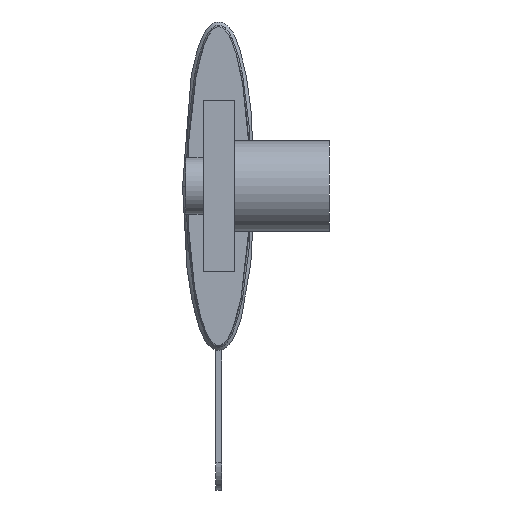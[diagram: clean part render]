
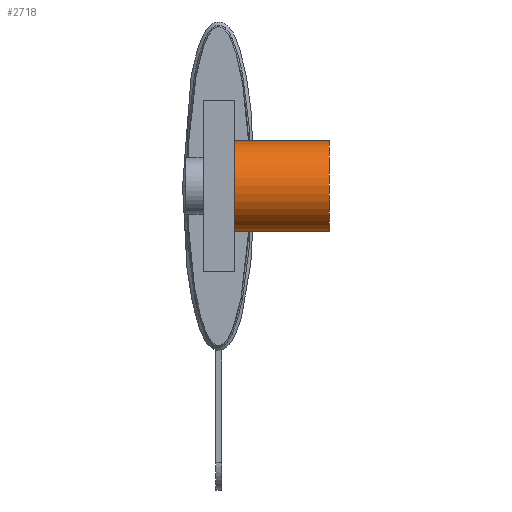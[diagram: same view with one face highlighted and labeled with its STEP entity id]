
A CAD part, left-side view. The second image highlights one B-rep face of the part: STEP entity #2718.
In plain terms, the highlighted cylindrical face has radius 3.97 mm (diameter 7.94 mm), a partial arc.
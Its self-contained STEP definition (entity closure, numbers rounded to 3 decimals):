
#494 = EDGE_LOOP ( 'NONE', ( #1005, #1007, #1015, #1028 ) ) ;
#897 = DIRECTION ( 'NONE',  ( 0., 0., 1. ) ) ;
#899 = DIRECTION ( 'NONE',  ( 0., -1., 0. ) ) ;
#904 = CARTESIAN_POINT ( 'NONE',  ( -53.975, -1.375, 0. ) ) ;
#943 = VECTOR ( 'NONE', #1567, 1000. ) ;
#948 = EDGE_CURVE ( 'NONE', #5936, #3561, #1159, .T. ) ;
#1005 = ORIENTED_EDGE ( 'NONE', *, *, #948, .F. ) ;
#1007 = ORIENTED_EDGE ( 'NONE', *, *, #2132, .T. ) ;
#1015 = ORIENTED_EDGE ( 'NONE', *, *, #1449, .T. ) ;
#1028 = ORIENTED_EDGE ( 'NONE', *, *, #1119, .T. ) ;
#1091 = CYLINDRICAL_SURFACE ( 'NONE', #3620, 3.97 ) ;
#1119 = EDGE_CURVE ( 'NONE', #3676, #3561, #6023, .T. ) ;
#1157 = DIRECTION ( 'NONE',  ( 0., 1., 0. ) ) ;
#1158 = CARTESIAN_POINT ( 'NONE',  ( -53.975, -31.375, -3.97 ) ) ;
#1159 = LINE ( 'NONE', #1158, #6158 ) ;
#1447 = CIRCLE ( 'NONE', #1470, 3.97 ) ;
#1449 = EDGE_CURVE ( 'NONE', #3592, #3676, #5931, .T. ) ;
#1470 = AXIS2_PLACEMENT_3D ( 'NONE', #4188, #2822, #2852 ) ;
#1567 = DIRECTION ( 'NONE',  ( 0., 1., 0. ) ) ;
#2132 = EDGE_CURVE ( 'NONE', #5936, #3592, #1447, .T. ) ;
#2579 = DIRECTION ( 'NONE',  ( 0., 0., 1. ) ) ;
#2718 = ADVANCED_FACE ( 'NONE', ( #5368 ), #1091, .T. ) ;
#2822 = DIRECTION ( 'NONE',  ( 0., 1., 0. ) ) ;
#2852 = DIRECTION ( 'NONE',  ( 0., 0., 1. ) ) ;
#3189 = CARTESIAN_POINT ( 'NONE',  ( -53.975, -31.375, 0. ) ) ;
#3520 = CARTESIAN_POINT ( 'NONE',  ( -53.975, -31.375, 3.97 ) ) ;
#3561 = VERTEX_POINT ( 'NONE', #5583 ) ;
#3592 = VERTEX_POINT ( 'NONE', #5548 ) ;
#3620 = AXIS2_PLACEMENT_3D ( 'NONE', #3189, #6280, #2579 ) ;
#3676 = VERTEX_POINT ( 'NONE', #4687 ) ;
#4188 = CARTESIAN_POINT ( 'NONE',  ( -53.975, -9.735, 0. ) ) ;
#4687 = CARTESIAN_POINT ( 'NONE',  ( -53.975, -1.375, 3.97 ) ) ;
#4897 = CARTESIAN_POINT ( 'NONE',  ( -53.975, -9.735, -3.97 ) ) ;
#5368 = FACE_OUTER_BOUND ( 'NONE', #494, .T. ) ;
#5548 = CARTESIAN_POINT ( 'NONE',  ( -53.975, -9.735, 3.97 ) ) ;
#5583 = CARTESIAN_POINT ( 'NONE',  ( -53.975, -1.375, -3.97 ) ) ;
#5925 = AXIS2_PLACEMENT_3D ( 'NONE', #904, #899, #897 ) ;
#5931 = LINE ( 'NONE', #3520, #943 ) ;
#5936 = VERTEX_POINT ( 'NONE', #4897 ) ;
#6023 = CIRCLE ( 'NONE', #5925, 3.97 ) ;
#6158 = VECTOR ( 'NONE', #1157, 1000. ) ;
#6280 = DIRECTION ( 'NONE',  ( 0., 1., 0. ) ) ;
